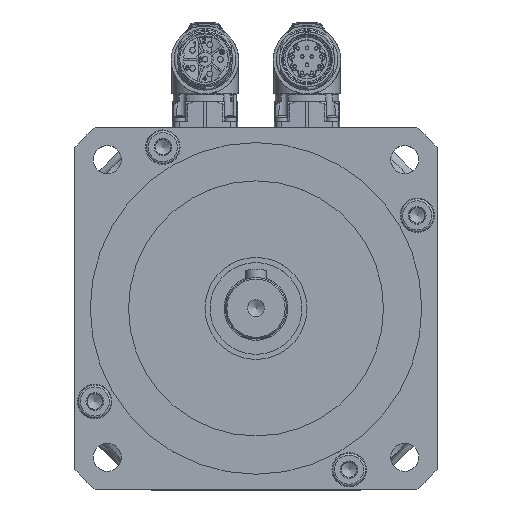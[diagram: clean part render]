
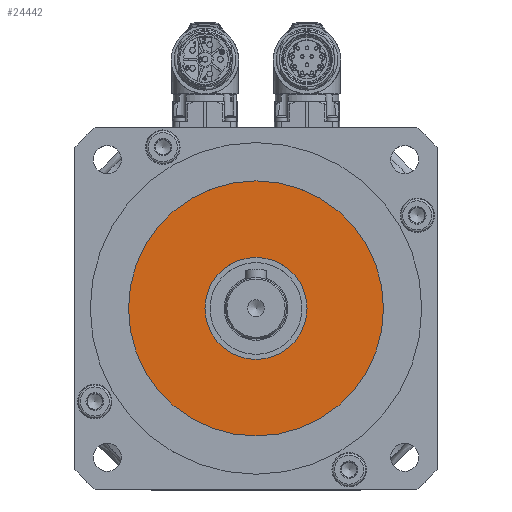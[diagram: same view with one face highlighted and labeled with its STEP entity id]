
A CAD part, top view. The second image highlights one B-rep face of the part: STEP entity #24442.
In plain terms, the highlighted planar face has unit normal (0, 0, 1).
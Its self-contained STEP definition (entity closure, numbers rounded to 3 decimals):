
#5446=PLANE('',#26000);
#5986=FACE_BOUND('',#7997,.T.);
#5987=FACE_BOUND('',#7998,.T.);
#7997=EDGE_LOOP('',(#17093));
#7998=EDGE_LOOP('',(#17094));
#9976=CIRCLE('',#25998,20.);
#9977=CIRCLE('',#26001,50.);
#11132=VERTEX_POINT('',#35106);
#11133=VERTEX_POINT('',#35110);
#13613=EDGE_CURVE('',#11132,#11132,#9976,.T.);
#13614=EDGE_CURVE('',#11133,#11133,#9977,.T.);
#17093=ORIENTED_EDGE('',*,*,#13613,.T.);
#17094=ORIENTED_EDGE('',*,*,#13614,.F.);
#24442=ADVANCED_FACE('',(#5986,#5987),#5446,.T.);
#25998=AXIS2_PLACEMENT_3D('',#35107,#28664,#28665);
#26000=AXIS2_PLACEMENT_3D('',#35109,#28668,#28669);
#26001=AXIS2_PLACEMENT_3D('',#35111,#28670,#28671);
#28664=DIRECTION('center_axis',(0.,0.,-1.));
#28665=DIRECTION('ref_axis',(-1.,0.,0.));
#28668=DIRECTION('center_axis',(0.,0.,1.));
#28669=DIRECTION('ref_axis',(1.,0.,0.));
#28670=DIRECTION('center_axis',(0.,0.,-1.));
#28671=DIRECTION('ref_axis',(-1.,0.,0.));
#35106=CARTESIAN_POINT('',(20.,0.,-0.5));
#35107=CARTESIAN_POINT('Origin',(0.,0.,-0.5));
#35109=CARTESIAN_POINT('Origin',(0.,0.,
-0.5));
#35110=CARTESIAN_POINT('',(50.,0.,-0.5));
#35111=CARTESIAN_POINT('Origin',(0.,0.,-0.5));
